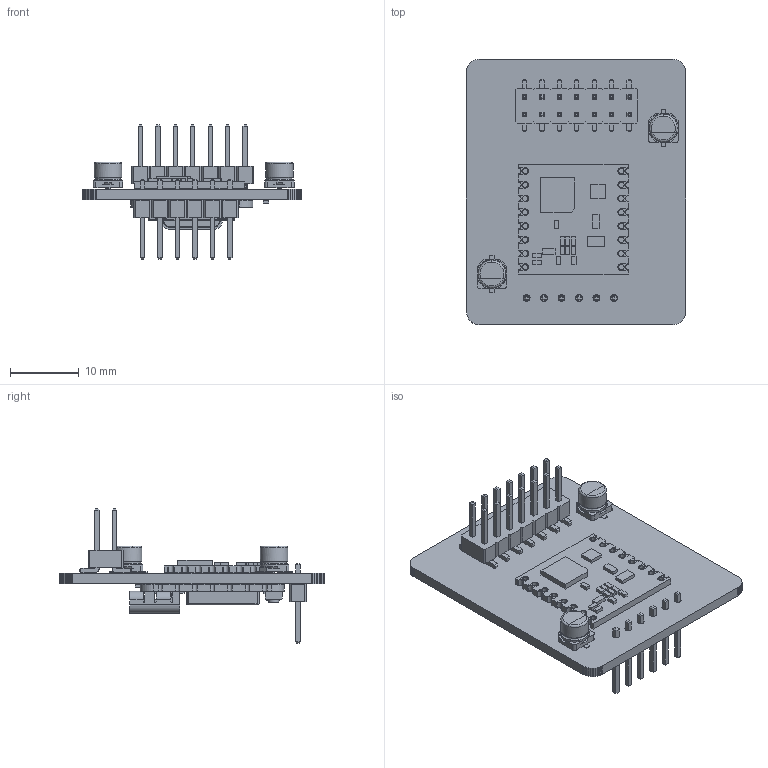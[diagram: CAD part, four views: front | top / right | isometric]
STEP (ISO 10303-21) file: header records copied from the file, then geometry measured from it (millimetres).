
FILE_DESCRIPTION(('KiCad electronic assembly'),'2;1');
FILE_NAME('WCM_v1D.step','2025-09-12T10:51:28',('Pcbnew'),('Kicad'), 'Open CASCADE STEP processor 7.9','KiCad to STEP converter','Unknown' );
FILE_SCHEMA(('AUTOMOTIVE_DESIGN { 1 0 10303 214 1 1 1 1 }'));
Length unit declared in the file: millimetre
Products named in the file (38): WCM_v1D 1; CP_Elec_4x3.9; PinHeader_2x07_P2.54mm_Vertical_SMD; RFM95W-868S2--3DModel-STEP-56544; Seeed Studio XIAO-ESP32-C3; USB TYPE C PORT; USB TYPE C PORT (1); BOSS-EXTRUDE14_8_; BOSS-EXTRUDE7_4_; BOSS-EXTRUDE7_3_; BOSS-EXTRUDE14_4_; BOSS-EXTRUDE14_2_; BOSS-EXTRUDE14_11_; BOSS-EXTRUDE7_7_; BOSS-EXTRUDE14_9_; BOSS-EXTRUDE14_3_; BOSS-EXTRUDE14_7_; MIRROR2; BOSS-EXTRUDE14_5_; BOSS-EXTRUDE14_12_; BOSS-EXTRUDE7_8_; BOSS-EXTRUDE7_1_; BOSS-EXTRUDE14_10_; BOSS-EXTRUDE7_9_; BOSS-EXTRUDE14_6_; CHAMFER9; BOSS-EXTRUDE14_1_; BOSS-EXTRUDE7_6_; BOSS-EXTRUDE7_2_; CUT-EXTRUDE5; BOSS-EXTRUDE7_5_; U.FL Connector v1; Button (1); Shield; SOLID; PinHeader_1x06_P2.54mm_Vertical; R_0603_1608Metric; WCM_v1D_PCB
Assembly tree (39 placements, depth 5):
  WCM_v1D 1
    CP_Elec_4x3.9  x2
    PinHeader_2x07_P2.54mm_Vertical_SMD
    RFM95W-868S2--3DModel-STEP-56544
    Seeed Studio XIAO-ESP32-C3
      USB TYPE C PORT
        USB TYPE C PORT (1)
          BOSS-EXTRUDE14_8_
          BOSS-EXTRUDE7_4_
          BOSS-EXTRUDE7_3_
          BOSS-EXTRUDE14_4_
          BOSS-EXTRUDE14_2_
          BOSS-EXTRUDE14_11_
          BOSS-EXTRUDE7_7_
          BOSS-EXTRUDE14_9_
          BOSS-EXTRUDE14_3_
          BOSS-EXTRUDE14_7_
          MIRROR2
          BOSS-EXTRUDE14_5_
          BOSS-EXTRUDE14_12_
          BOSS-EXTRUDE7_8_
          BOSS-EXTRUDE7_1_
          BOSS-EXTRUDE14_10_
          BOSS-EXTRUDE7_9_
          BOSS-EXTRUDE14_6_
          CHAMFER9
          BOSS-EXTRUDE14_1_
          BOSS-EXTRUDE7_6_
          BOSS-EXTRUDE7_2_
          CUT-EXTRUDE5
          BOSS-EXTRUDE7_5_
      U.FL Connector v1
      Button (1)  x2
      Shield
      SOLID
    PinHeader_1x06_P2.54mm_Vertical
    R_0603_1608Metric
    WCM_v1D_PCB
Bounding box: 31.9 x 38.7 x 19.52 mm (x, y, z)
Volume: 3157.5 mm3; surface area: 6614.9 mm2
Topology: 70 solids, 70 shells, 1867 faces, 4693 edges, 3025 vertices
Faces by surface type: plane 1485, cylinder 336, torus 22, cone 9, sphere 7, bspline 6, revolution 2
Full cylindrical faces by diameter (mm): 0.5 x3, 0.6 x2, 0.7 x2, 0.75 x14, 1 x6, 1.5 x2, 1.524 x6, 1.65 x1, 1.9 x1, 2 x2, 4 x4
Entity records: 60731 total; most frequent: CARTESIAN_POINT 9771, ORIENTED_EDGE 9066, DIRECTION 8896, EDGE_CURVE 4533, LINE 3833, VECTOR 3833, VERTEX_POINT 2928, AXIS2_PLACEMENT_3D 2531
